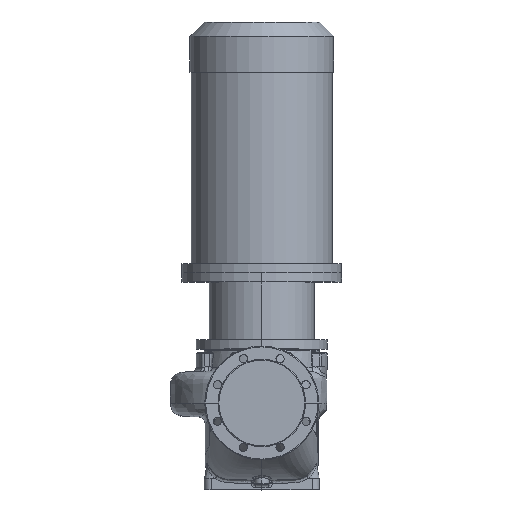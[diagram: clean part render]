
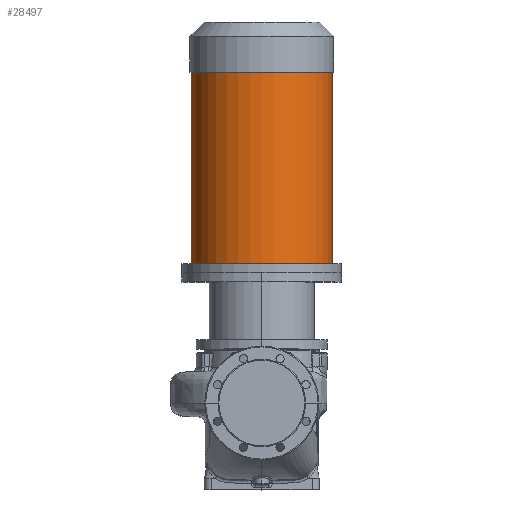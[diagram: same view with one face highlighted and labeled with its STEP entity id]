
A CAD part, top view. The second image highlights one B-rep face of the part: STEP entity #28497.
In plain terms, the highlighted cylindrical face has radius 154.5 mm (diameter 309 mm), a partial arc.
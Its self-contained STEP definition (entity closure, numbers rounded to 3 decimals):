
#2607 = DIRECTION ( 'NONE',  ( 0., -1., 0. ) ) ;
#2917 = CARTESIAN_POINT ( 'NONE',  ( 154.5, 285.8, 0. ) ) ;
#5854 = ORIENTED_EDGE ( 'NONE', *, *, #30264, .T. ) ;
#7023 = FACE_OUTER_BOUND ( 'NONE', #43237, .T. ) ;
#7683 = VECTOR ( 'NONE', #42293, 1000. ) ;
#8295 = EDGE_CURVE ( 'NONE', #24124, #12822, #58206, .T. ) ;
#8837 = CARTESIAN_POINT ( 'NONE',  ( 0., 725.8, 0. ) ) ;
#9028 = EDGE_CURVE ( 'NONE', #26655, #27911, #20870, .T. ) ;
#9499 = DIRECTION ( 'NONE',  ( 0., -1., 0. ) ) ;
#10697 = CARTESIAN_POINT ( 'NONE',  ( 0., 285.8, 0. ) ) ;
#11308 = AXIS2_PLACEMENT_3D ( 'NONE', #8837, #2607, #45716 ) ;
#11824 = LINE ( 'NONE', #2917, #51328 ) ;
#12499 = DIRECTION ( 'NONE',  ( 0., -1., 0. ) ) ;
#12822 = VERTEX_POINT ( 'NONE', #44680 ) ;
#14237 = EDGE_CURVE ( 'NONE', #24124, #26655, #11824, .T. ) ;
#20467 = CARTESIAN_POINT ( 'NONE',  ( 154.5, 725.8, 0. ) ) ;
#20870 = CIRCLE ( 'NONE', #29245, 154.5 ) ;
#23738 = CARTESIAN_POINT ( 'NONE',  ( -154.5, 285.8, 0. ) ) ;
#24124 = VERTEX_POINT ( 'NONE', #20467 ) ;
#24749 = LINE ( 'NONE', #23738, #7683 ) ;
#26655 = VERTEX_POINT ( 'NONE', #28869 ) ;
#27911 = VERTEX_POINT ( 'NONE', #45554 ) ;
#28497 = ADVANCED_FACE ( 'NONE', ( #7023 ), #45007, .T. ) ;
#28869 = CARTESIAN_POINT ( 'NONE',  ( 154.5, 305.8, 0. ) ) ;
#29245 = AXIS2_PLACEMENT_3D ( 'NONE', #51984, #9499, #47599 ) ;
#30264 = EDGE_CURVE ( 'NONE', #12822, #27911, #24749, .T. ) ;
#36442 = ORIENTED_EDGE ( 'NONE', *, *, #14237, .F. ) ;
#37628 = AXIS2_PLACEMENT_3D ( 'NONE', #10697, #44438, #58618 ) ;
#42293 = DIRECTION ( 'NONE',  ( 0., -1., 0. ) ) ;
#43134 = ORIENTED_EDGE ( 'NONE', *, *, #9028, .F. ) ;
#43237 = EDGE_LOOP ( 'NONE', ( #36442, #56007, #5854, #43134 ) ) ;
#44438 = DIRECTION ( 'NONE',  ( 0., -1., 0. ) ) ;
#44680 = CARTESIAN_POINT ( 'NONE',  ( -154.5, 725.8, 0. ) ) ;
#45007 = CYLINDRICAL_SURFACE ( 'NONE', #37628, 154.5 ) ;
#45554 = CARTESIAN_POINT ( 'NONE',  ( -154.5, 305.8, 0. ) ) ;
#45716 = DIRECTION ( 'NONE',  ( -1., 0., 0. ) ) ;
#47599 = DIRECTION ( 'NONE',  ( -1., 0., 0. ) ) ;
#51328 = VECTOR ( 'NONE', #12499, 1000. ) ;
#51984 = CARTESIAN_POINT ( 'NONE',  ( 0., 305.8, 0. ) ) ;
#56007 = ORIENTED_EDGE ( 'NONE', *, *, #8295, .T. ) ;
#58206 = CIRCLE ( 'NONE', #11308, 154.5 ) ;
#58618 = DIRECTION ( 'NONE',  ( -1., 0., 0. ) ) ;
